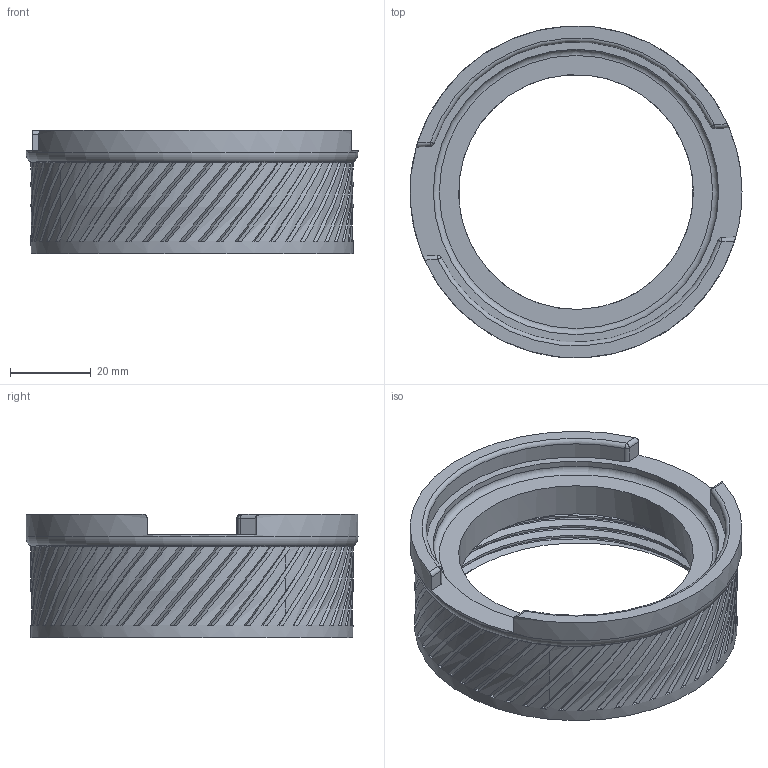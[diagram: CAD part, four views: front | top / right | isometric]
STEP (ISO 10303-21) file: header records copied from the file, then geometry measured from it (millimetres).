
FILE_DESCRIPTION(/* description */ ('STEP AP242','CAx-IF Rec.Pracs.---Representation and Presentation of Product Manufacturing Information (PMI)---4.0---2014-10-13','CAx-IF Rec.Pracs.---3D Tessellated Geometry---0.4---2014-09-14','2;1'),/* implementation_level */ '2;1');
FILE_NAME(/* name */ '646923c5cac4670533c207ab',/* time_stamp */ '2023-05-20T19:47:18Z',/* author */ (''),/* organization */ (''),/* preprocessor_version */ 'ST-DEVELOPER v19.4',/* originating_system */ ' ',/* authorisation */ ' ');
FILE_SCHEMA (('AP242_MANAGED_MODEL_BASED_3D_ENGINEERING_MIM_LF { 1 0 10303 442 1 1 4 }'));
Length unit declared in the file: metre
Products named in the file (1): Base 22mm NoMagnet Lug
Bounding box: 82 x 82 x 30.4 mm (x, y, z)
Volume: 41622.5 mm3; surface area: 20371.8 mm2
Topology: 1 solids, 1 shells, 307 faces, 791 edges, 485 vertices
Faces by surface type: bspline 149, plane 128, cylinder 18, torus 4, cone 4, sphere 4
Full cylindrical faces by diameter (mm): 58 x1, 70.5 x1, 79.6 x1, 82 x1
Entity records: 15727 total; most frequent: CARTESIAN_POINT 9993, ORIENTED_EDGE 1526, DIRECTION 784, EDGE_CURVE 763, VERTEX_POINT 472, AXIS2_PLACEMENT_3D 356, B_SPLINE_CURVE_WITH_KNOTS 329, EDGE_LOOP 317
